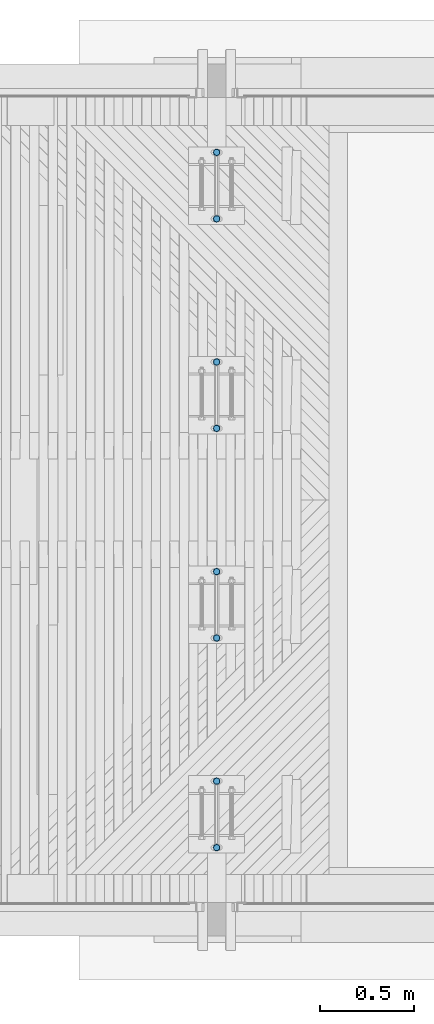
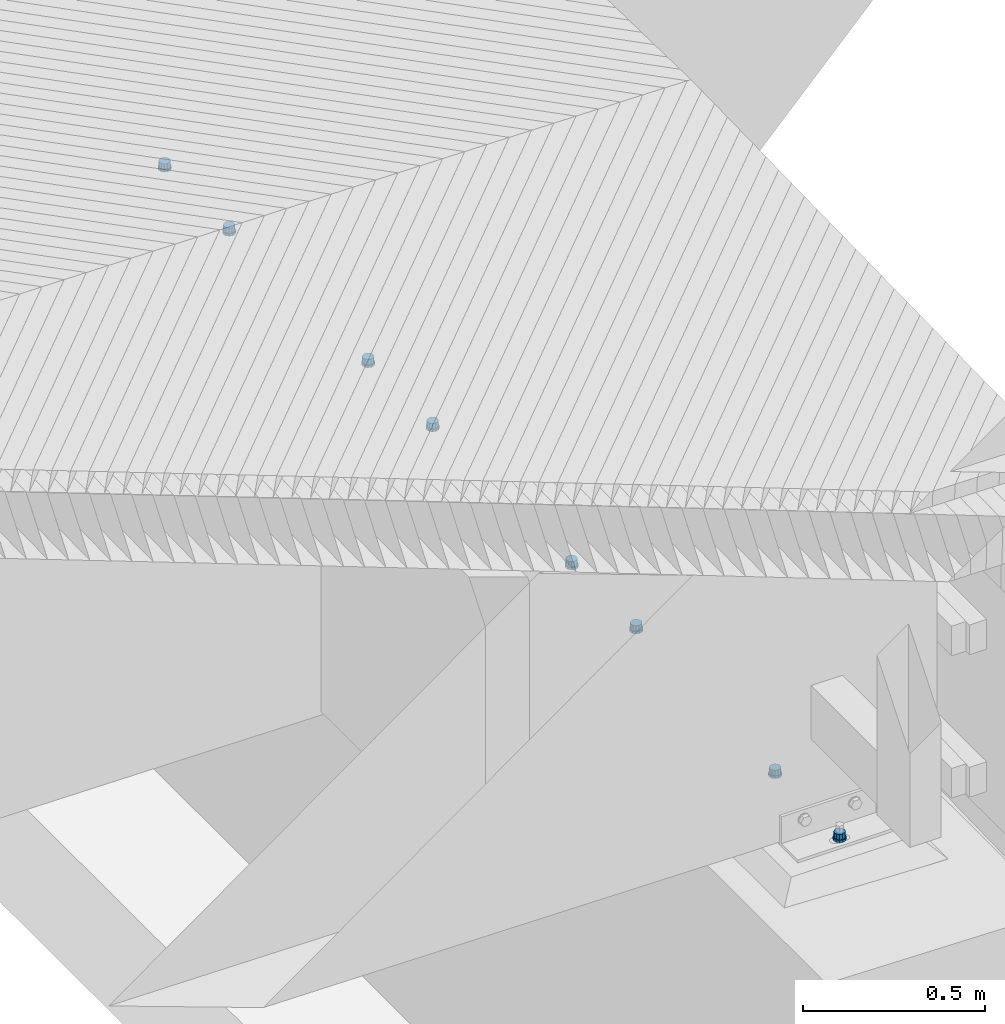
# One storey, part 15 of 65: 16 columns.
"""IFC2X3 building model written with IfcOpenShell, lengths in millimetres."""

from ifc_helpers import new_model, si_unit, frame, origin_with_axes, place, context, subcontext, project, spatial, faceted_brep, material, type_object, element, save


model = new_model("IFC2X3")

# Units and contexts
model_context = context("Model", 3, precision=1e-05, world=origin_with_axes())
body_context = subcontext(model_context, "Body", "Model", "MODEL_VIEW")
ifc_project = project(units=[si_unit("LENGTHUNIT", "METRE", prefix="MILLI"), si_unit("AREAUNIT", "SQUARE_METRE"), si_unit("VOLUMEUNIT", "CUBIC_METRE"), si_unit("MASSUNIT", "GRAM", prefix="KILO"), si_unit("TIMEUNIT", "SECOND"), si_unit("PLANEANGLEUNIT", "RADIAN"), si_unit("SOLIDANGLEUNIT", "STERADIAN"), si_unit("THERMODYNAMICTEMPERATUREUNIT", "DEGREE_CELSIUS"), si_unit("LUMINOUSINTENSITYUNIT", "LUMEN")], contexts=[model_context])

# Site, building, storey
site_placement = place(None, origin_with_axes())
site = spatial("IfcSite", under=ifc_project, at=site_placement, Name="Undefined", CompositionType="ELEMENT")
building_placement = place(site_placement, origin_with_axes())
building = spatial("IfcBuilding", under=site, at=building_placement, Name="Undefined", CompositionType="ELEMENT")
storey_placement = place(building_placement, origin_with_axes())
storey = spatial("IfcBuildingStorey", under=building, at=storey_placement, Name="Undefined", CompositionType="ELEMENT", Elevation=0.0)

# Columns
ifc_material = material(Name="STEEL/Steel_Undefined")
column_type_1 = type_object("IfcColumnType", Name="D38", PredefinedType="NOTDEFINED")
for number, where, z_axis, x_axis, name in (
    (1, (16000.0, 22747.5000000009, 2007.32999999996), (0.0, 1.0, 0.0), (0.0, 0.0, 1.0), "BEAM"),
    (2, (16000.0, 23102.5000000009, 2007.32999999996), (0.0, 1.0, 0.0), (0.0, 0.0, 1.0), "BEAM"),
    (3, (16000.0, 23867.5000000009, 1985.32999999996), (0.0, 1.0, 0.0), (0.0, 0.0, 1.0), "BEAM"),
    (4, (16000.0, 24222.5000000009, 1985.32999999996), (0.0, 1.0, 0.0), (0.0, 0.0, 1.0), "BEAM"),
    (5, (16000.0, 21982.5, 2007.32999999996), (0.0, -1.0, 0.0), (0.0, 0.0, 1.0), "BEAM"),
    (6, (16000.0, 21627.5, 2007.32999999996), (0.0, -1.0, 0.0), (0.0, 0.0, 1.0), "BEAM"),
    (7, (16000.0, 20862.5, 1985.32999999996), (0.0, -1.0, 0.0), (0.0, 0.0, 1.0), "BEAM"),
    (8, (16000.0, 20507.5, 1985.32999999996), (0.0, -1.0, 0.0), (0.0, 0.0, 1.0), "BEAM"),
):
    element("IfcColumn", number, at=place(storey_placement, frame(where, z_axis=z_axis, x_axis=x_axis)), inside=storey, type_object=column_type_1, material=ifc_material, Name=name, ObjectType="D38", context=body_context, shape_type="Brep", body=[
        faceted_brep([(0.0, -19.0, 0.0), (0.0, -16.4544826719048, -9.5), (8.0, -16.4544826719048, -9.5), (8.0, -19.0, 0.0), (0.0, -9.5, -16.454482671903), (8.0, -9.5, -16.454482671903), (0.0, 0.0, -19.0), (8.0, 0.0, -19.0), (0.0, 9.5, -16.454482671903), (8.0, 9.5, -16.454482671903), (0.0, 16.4544826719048, -9.5), (8.0, 16.4544826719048, -9.5), (0.0, 19.0, 0.0), (8.0, 19.0, 0.0), (0.0, 16.4544826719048, 9.5), (8.0, 16.4544826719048, 9.5), (0.0, 9.5, 16.454482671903), (8.0, 9.5, 16.454482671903), (0.0, 0.0, 19.0), (8.0, 0.0, 19.0), (0.0, -9.5, 16.454482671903), (8.0, -9.5, 16.454482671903), (0.0, -16.4544826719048, 9.5), (8.0, -16.4544826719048, 9.5)], [[[0, 1, 2, 3]], [[1, 4, 5, 2]], [[4, 6, 7, 5]], [[6, 8, 9, 7]], [[8, 10, 11, 9]], [[10, 12, 13, 11]], [[12, 14, 15, 13]], [[14, 16, 17, 15]], [[16, 18, 19, 17]], [[18, 20, 21, 19]], [[20, 22, 23, 21]], [[22, 0, 3, 23]], [[5, 7, 9, 11, 13, 15, 17, 19, 21, 23, 3, 2]], [[22, 20, 18, 16, 14, 12, 10, 8, 6, 4, 1, 0]]]),
    ])
column_type_2 = type_object("IfcColumnType", Name="D33", PredefinedType="NOTDEFINED")
for number, where, z_axis, x_axis, name in (
    (9, (16000.0, 22747.5000000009, 2015.32999999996), (0.0, 1.0, 0.0), (0.0, 0.0, 1.0), "BEAM"),
    (10, (16000.0, 23102.5000000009, 2015.32999999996), (0.0, 1.0, 0.0), (0.0, 0.0, 1.0), "BEAM"),
    (11, (16000.0, 23867.5000000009, 1993.32999999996), (0.0, 1.0, 0.0), (0.0, 0.0, 1.0), "BEAM"),
    (12, (16000.0, 24222.5000000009, 1993.32999999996), (0.0, 1.0, 0.0), (0.0, 0.0, 1.0), "BEAM"),
    (13, (16000.0, 21982.5, 2015.32999999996), (0.0, -1.0, 0.0), (0.0, 0.0, 1.0), "BEAM"),
    (14, (16000.0, 21627.5, 2015.32999999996), (0.0, -1.0, 0.0), (0.0, 0.0, 1.0), "BEAM"),
    (15, (16000.0, 20862.5, 1993.32999999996), (0.0, -1.0, 0.0), (0.0, 0.0, 1.0), "BEAM"),
    (16, (16000.0, 20507.5, 1993.32999999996), (0.0, -1.0, 0.0), (0.0, 0.0, 1.0), "BEAM"),
):
    element("IfcColumn", number, at=place(storey_placement, frame(where, z_axis=z_axis, x_axis=x_axis)), inside=storey, type_object=column_type_2, material=ifc_material, Name=name, ObjectType="D33", context=body_context, shape_type="Brep", body=[
        faceted_brep([(0.0, -16.5, 0.0), (0.0, -14.2894191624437, -8.25), (18.0, -14.2894191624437, -8.25), (18.0, -16.5, 0.0), (0.0, -8.25, -14.2894191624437), (18.0, -8.25, -14.2894191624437), (0.0, 0.0, -16.5), (18.0, 0.0, -16.5), (0.0, 8.25, -14.2894191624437), (18.0, 8.25, -14.2894191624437), (0.0, 14.2894191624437, -8.25), (18.0, 14.2894191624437, -8.25), (0.0, 16.5, 0.0), (18.0, 16.5, 0.0), (0.0, 14.2894191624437, 8.25), (18.0, 14.2894191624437, 8.25), (0.0, 8.25, 14.2894191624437), (18.0, 8.25, 14.2894191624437), (0.0, 0.0, 16.5), (18.0, 0.0, 16.5), (0.0, -8.25, 14.2894191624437), (18.0, -8.25, 14.2894191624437), (0.0, -14.2894191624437, 8.25), (18.0, -14.2894191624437, 8.25)], [[[0, 1, 2, 3]], [[1, 4, 5, 2]], [[4, 6, 7, 5]], [[6, 8, 9, 7]], [[8, 10, 11, 9]], [[10, 12, 13, 11]], [[12, 14, 15, 13]], [[14, 16, 17, 15]], [[16, 18, 19, 17]], [[18, 20, 21, 19]], [[20, 22, 23, 21]], [[22, 0, 3, 23]], [[5, 7, 9, 11, 13, 15, 17, 19, 21, 23, 3, 2]], [[22, 20, 18, 16, 14, 12, 10, 8, 6, 4, 1, 0]]]),
    ])

save(model, "model.ifc")
